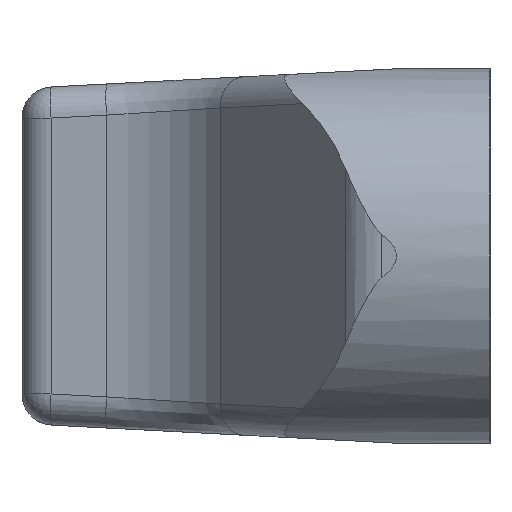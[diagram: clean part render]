
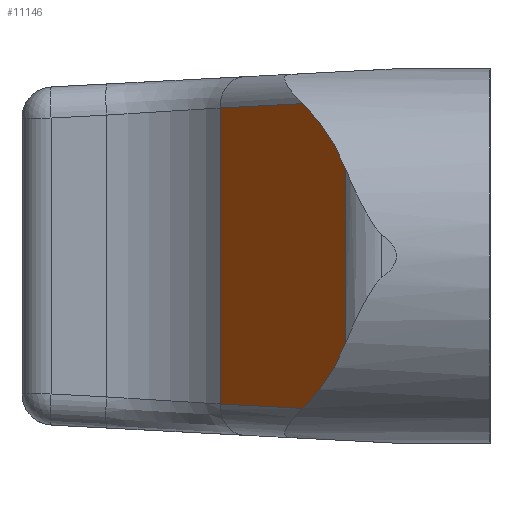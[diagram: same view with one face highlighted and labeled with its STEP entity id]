
A CAD part, left-side view. The second image highlights one B-rep face of the part: STEP entity #11146.
In plain terms, the highlighted planar face has unit normal (-0.602, 0.798, 0).
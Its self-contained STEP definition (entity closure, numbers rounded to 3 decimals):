
#44 = EDGE_CURVE ( 'NONE', #1842, #4815, #9387, .T. ) ;
#822 = CARTESIAN_POINT ( 'NONE',  ( 6.025, 5.651, 4.744 ) ) ;
#1281 = CARTESIAN_POINT ( 'NONE',  ( 6.025, 5.651, 6. ) ) ;
#1471 = AXIS2_PLACEMENT_3D ( 'NONE', #4681, #10896, #5591 ) ;
#1545 = CARTESIAN_POINT ( 'NONE',  ( 0.68, 1.621, -2.775 ) ) ;
#1547 = CARTESIAN_POINT ( 'NONE',  ( 2.514, 3.003, 4.883 ) ) ;
#1550 = LINE ( 'NONE', #1281, #3615 ) ;
#1630 = CARTESIAN_POINT ( 'NONE',  ( 1.742, 2.421, 4.332 ) ) ;
#1667 = CARTESIAN_POINT ( 'NONE',  ( 0.68, 1.621, 2.775 ) ) ;
#1675 = ORIENTED_EDGE ( 'NONE', *, *, #5828, .F. ) ;
#1805 = EDGE_CURVE ( 'NONE', #4942, #6064, #5446, .T. ) ;
#1842 = VERTEX_POINT ( 'NONE', #5800 ) ;
#2271 = VECTOR ( 'NONE', #7209, 1000. ) ;
#2511 = CARTESIAN_POINT ( 'NONE',  ( 2.514, 3.003, 4.883 ) ) ;
#2807 = EDGE_CURVE ( 'NONE', #9167, #1842, #10279, .T. ) ;
#3305 = CARTESIAN_POINT ( 'NONE',  ( 1.742, 2.421, -4.332 ) ) ;
#3480 = FACE_OUTER_BOUND ( 'NONE', #6050, .T. ) ;
#3615 = VECTOR ( 'NONE', #4171, 1000. ) ;
#3756 = CARTESIAN_POINT ( 'NONE',  ( 0.68, 1.621, 6. ) ) ;
#4171 = DIRECTION ( 'NONE',  ( 0., 0., -1. ) ) ;
#4314 =( BOUNDED_CURVE ( )  B_SPLINE_CURVE ( 3, ( #2511, #1630, #7022, #1667 ),
 .UNSPECIFIED., .F., .T. ) 
 B_SPLINE_CURVE_WITH_KNOTS ( ( 4, 4 ),
 ( 5.332, 5.802 ),
 .UNSPECIFIED. ) 
 CURVE ( )  GEOMETRIC_REPRESENTATION_ITEM ( )  RATIONAL_B_SPLINE_CURVE ( ( 1., 0.982, 0.982, 1. ) ) 
 REPRESENTATION_ITEM ( '' )  );
#4600 = LINE ( 'NONE', #3756, #9044 ) ;
#4641 = PLANE ( 'NONE',  #1471 ) ;
#4661 = CARTESIAN_POINT ( 'NONE',  ( 6.001, 5.633, 4.745 ) ) ;
#4681 = CARTESIAN_POINT ( 'NONE',  ( 6.025, 5.651, 6. ) ) ;
#4815 = VERTEX_POINT ( 'NONE', #6729 ) ;
#4905 = DIRECTION ( 'NONE',  ( -0.798, -0.602, 0.032 ) ) ;
#4942 = VERTEX_POINT ( 'NONE', #822 ) ;
#5231 = ORIENTED_EDGE ( 'NONE', *, *, #9159, .F. ) ;
#5446 = LINE ( 'NONE', #4661, #7809 ) ;
#5591 = DIRECTION ( 'NONE',  ( 0.798, 0.602, 0. ) ) ;
#5740 = ORIENTED_EDGE ( 'NONE', *, *, #44, .F. ) ;
#5800 = CARTESIAN_POINT ( 'NONE',  ( 2.514, 3.003, -4.883 ) ) ;
#5828 = EDGE_CURVE ( 'NONE', #11035, #9167, #4600, .T. ) ;
#6050 = EDGE_LOOP ( 'NONE', ( #5231, #6777, #9483, #5740, #6542, #1675 ) ) ;
#6064 = VERTEX_POINT ( 'NONE', #1547 ) ;
#6283 = CARTESIAN_POINT ( 'NONE',  ( 0.68, 1.621, 2.775 ) ) ;
#6542 = ORIENTED_EDGE ( 'NONE', *, *, #2807, .F. ) ;
#6729 = CARTESIAN_POINT ( 'NONE',  ( 6.025, 5.651, -4.744 ) ) ;
#6777 = ORIENTED_EDGE ( 'NONE', *, *, #1805, .F. ) ;
#7022 = CARTESIAN_POINT ( 'NONE',  ( 1.119, 1.952, 3.616 ) ) ;
#7209 = DIRECTION ( 'NONE',  ( 0.798, 0.602, 0.032 ) ) ;
#7774 = CARTESIAN_POINT ( 'NONE',  ( 1.119, 1.952, -3.616 ) ) ;
#7809 = VECTOR ( 'NONE', #4905, 1000. ) ;
#8157 = EDGE_CURVE ( 'NONE', #4942, #4815, #1550, .T. ) ;
#9044 = VECTOR ( 'NONE', #10992, 1000. ) ;
#9057 = CARTESIAN_POINT ( 'NONE',  ( 4.33, 4.373, -4.811 ) ) ;
#9159 = EDGE_CURVE ( 'NONE', #6064, #11035, #4314, .T. ) ;
#9167 = VERTEX_POINT ( 'NONE', #9708 ) ;
#9387 = LINE ( 'NONE', #9057, #2271 ) ;
#9483 = ORIENTED_EDGE ( 'NONE', *, *, #8157, .T. ) ;
#9556 = CARTESIAN_POINT ( 'NONE',  ( 2.514, 3.003, -4.883 ) ) ;
#9708 = CARTESIAN_POINT ( 'NONE',  ( 0.68, 1.621, -2.775 ) ) ;
#10279 =( BOUNDED_CURVE ( )  B_SPLINE_CURVE ( 3, ( #1545, #7774, #3305, #9556 ),
 .UNSPECIFIED., .F., .T. ) 
 B_SPLINE_CURVE_WITH_KNOTS ( ( 4, 4 ),
 ( 0.481, 0.951 ),
 .UNSPECIFIED. ) 
 CURVE ( )  GEOMETRIC_REPRESENTATION_ITEM ( )  RATIONAL_B_SPLINE_CURVE ( ( 1., 0.982, 0.982, 1. ) ) 
 REPRESENTATION_ITEM ( '' )  );
#10896 = DIRECTION ( 'NONE',  ( 0.602, -0.798, 0. ) ) ;
#10992 = DIRECTION ( 'NONE',  ( 0., 0., -1. ) ) ;
#11035 = VERTEX_POINT ( 'NONE', #6283 ) ;
#11146 = ADVANCED_FACE ( 'NONE', ( #3480 ), #4641, .F. ) ;
